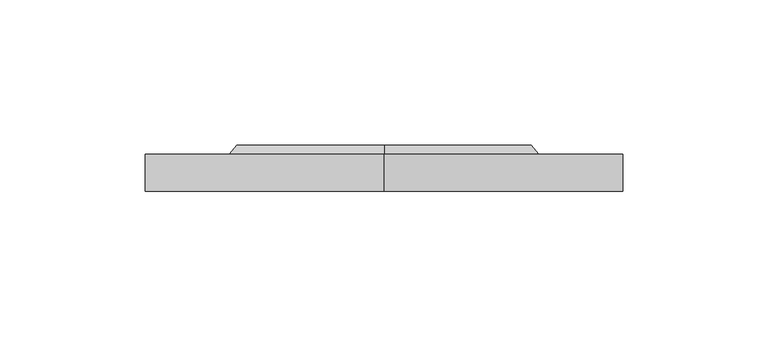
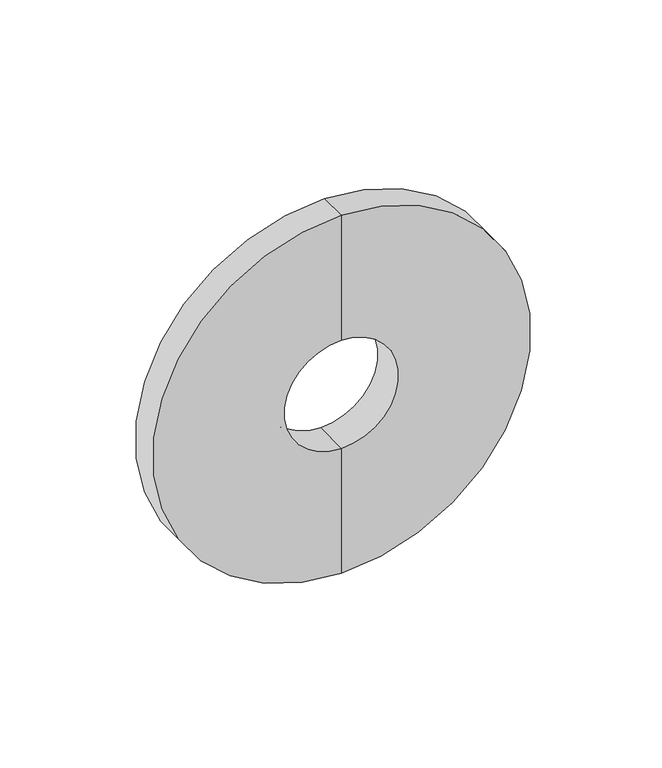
"""IFC4 building model written with IfcOpenShell, lengths in millimetres: pipe fitting geometry, Фланец : Фланец."""

from ifc_helpers import new_model, si_unit, frame, origin, place, context, project, spatial, polyline, circle_curve, source, transform, mapped, element, save
from ifc_brep_helpers import plane_surface, cylinder_surface, revolved_surface, advanced_brep


def pipe_fitting_8ab3f06a(model_context):
    return source(origin(), model_context, "Body", "AdvancedBrep", [
        advanced_brep(
        [(0.0, 0.0, -82.5), (0.0, 0.0, 82.5), (0.0, 12.8, 82.5), (0.0, 12.8, -82.5), (0.0, 0.0, -25.0), (0.0, 0.0, 25.0), (0.0, 15.8, -25.0), (0.0, 15.8, 25.0), (0.0, 15.8, -51.0), (0.0, 15.8, 51.0), (0.0, 12.8, -53.5), (0.0, 12.8, 53.5)],
        [
            (0, 1, circle_curve(frame((0.0, 0.0, 0.0), z_axis=(0.0, 1.0, 0.0), x_axis=(0.0, 0.0, 1.0)), 82.5)),
            (1, 2),
            (2, 3, circle_curve(frame((0.0, 12.8, 0.0), z_axis=(0.0, -1.0, 0.0), x_axis=(0.0, 0.0, 1.0)), 82.5)),
            (3, 0),
            (1, 0, circle_curve(frame((0.0, 0.0, 0.0), z_axis=(0.0, 1.0, 0.0), x_axis=(0.0, 0.0, 1.0)), 82.5)),
            (3, 2, circle_curve(frame((0.0, 12.8, 0.0), z_axis=(0.0, -1.0, 0.0), x_axis=(0.0, 0.0, 1.0)), 82.5)),
            (4, 5, circle_curve(frame((0.0, 0.0, 0.0), z_axis=(0.0, 1.0, 0.0), x_axis=(0.0, 0.0, 1.0)), 25.0)),
            (5, 1),
            (0, 4),
            (5, 4, circle_curve(frame((0.0, 0.0, 0.0), z_axis=(0.0, 1.0, 0.0), x_axis=(0.0, 0.0, 1.0)), 25.0)),
            (6, 7, circle_curve(frame((0.0, 15.8, 0.0), z_axis=(0.0, 1.0, 0.0), x_axis=(0.0, 0.0, 1.0)), 25.0)),
            (7, 5),
            (4, 6),
            (7, 6, circle_curve(frame((0.0, 15.8, 0.0), z_axis=(0.0, 1.0, 0.0), x_axis=(0.0, 0.0, 1.0)), 25.0)),
            (8, 9, circle_curve(frame((0.0, 15.8, 0.0), z_axis=(0.0, 1.0, 0.0), x_axis=(0.0, 0.0, 1.0)), 51.0)),
            (9, 7),
            (6, 8),
            (9, 8, circle_curve(frame((0.0, 15.8, 0.0), z_axis=(0.0, 1.0, 0.0), x_axis=(0.0, 0.0, 1.0)), 51.0)),
            (10, 11, circle_curve(frame((0.0, 12.8, 0.0), z_axis=(0.0, 1.0, 0.0), x_axis=(0.0, 0.0, 1.0)), 53.5)),
            (11, 9),
            (8, 10),
            (11, 10, circle_curve(frame((0.0, 12.8, 0.0), z_axis=(0.0, 1.0, 0.0), x_axis=(0.0, 0.0, 1.0)), 53.5)),
            (2, 11),
            (10, 3),
        ],
        [
            cylinder_surface(frame((0.0, -60.0, 0.0), z_axis=(0.0, -1.0, 0.0), x_axis=(0.0, 0.0, 1.0)), 82.5),
            plane_surface(frame((0.0, 0.0, 0.0), z_axis=(0.0, -1.0, 0.0), x_axis=(0.0, 0.0, 1.0))),
            revolved_surface(polyline([(0.0, 0.0, 25.0), (0.0, 15.799999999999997, 25.0)]), (0.0, -60.0, 0.0), (0.0, -1.0, 0.0)),
            plane_surface(frame((0.0, 15.8, 0.0), z_axis=(0.0, 1.0, 0.0), x_axis=(0.0, 0.0, 1.0))),
            revolved_surface(polyline([(0.0, 15.8, 51.0), (0.0, 12.8, 53.5)]), (0.0, -60.0, 0.0), (0.0, -1.0, 0.0)),
            plane_surface(frame((0.0, 12.8, 0.0), z_axis=(0.0, 1.0, 0.0), x_axis=(0.0, 0.0, 1.0))),
        ],
        [
            (0, [[1, 2, 3, 4]]),
            (0, [[5, -4, 6, -2]]),
            (1, [[7, 8, -1, 9]]),
            (1, [[10, -9, -5, -8]]),
            (2, [[11, 12, -7, 13]]),
            (2, [[14, -13, -10, -12]]),
            (3, [[15, 16, -11, 17]]),
            (3, [[18, -17, -14, -16]]),
            (4, [[19, 20, -15, 21]]),
            (4, [[22, -21, -18, -20]]),
            (5, [[-3, 23, -19, 24]]),
            (5, [[-6, -24, -22, -23]]),
        ],
    ),
    ])


if __name__ == "__main__":
    model = new_model("IFC4")
    model_context = context("Model", 3, world=origin())
    ifc_project = project(units=[si_unit("LENGTHUNIT", "METRE", prefix="MILLI")], contexts=[model_context])
    site = spatial("IfcSite", under=ifc_project)
    building = spatial("IfcBuilding", under=site)
    placement = place(None, origin())
    pipe_fitting_shape = pipe_fitting_8ab3f06a(model_context)
    element("IfcPipeFitting", 1, ObjectType="Фланец : Фланец", at=placement, inside=building, context=model_context, shape_type="MappedRepresentation", body=[
        mapped(pipe_fitting_shape, transform((0.0, 0.0, 0.0), x_axis=(1.0, 0.0, 0.0), y_axis=(0.0, 1.0, 0.0), z_axis=(0.0, 0.0, 1.0))),
    ])
    save(model, "model.ifc")
